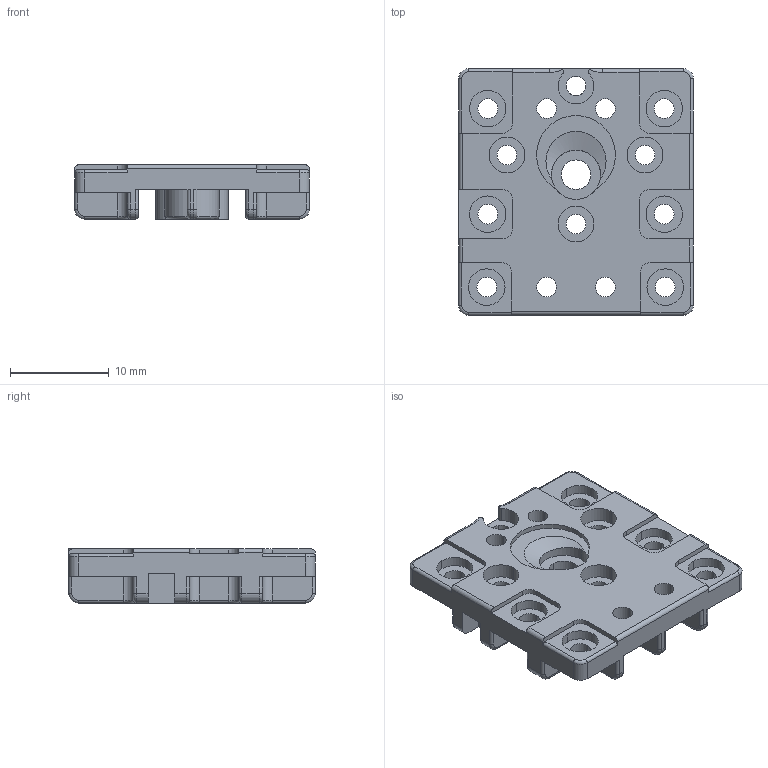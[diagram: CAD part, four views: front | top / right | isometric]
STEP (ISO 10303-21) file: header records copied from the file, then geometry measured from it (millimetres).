
FILE_DESCRIPTION((''),'2;1');
FILE_NAME('U_PLATE','2011-12-13T',('User'),(''),'PRO/ENGINEER BY PARAMETRIC TECHNOLOGY CORPORATION, 2008230','PRO/ENGINEER BY PARAMETRIC TECHNOLOGY CORPORATION, 2008230','');
FILE_SCHEMA(('CONFIG_CONTROL_DESIGN'));
Length unit declared in the file: millimetre
Products named in the file (1): U_PLATE
Bounding box: 23.8 x 25 x 5.5 mm (x, y, z)
Volume: 1631.8 mm3; surface area: 2286.5 mm2
Topology: 1 solids, 1 shells, 309 faces, 813 edges, 515 vertices
Faces by surface type: cylinder 163, plane 103, torus 41, sphere 1, bspline 1
Entity records: 9785 total; most frequent: CARTESIAN_POINT 1788, DIRECTION 1774, ORIENTED_EDGE 1626, EDGE_CURVE 813, AXIS2_PLACEMENT_3D 677, VERTEX_POINT 515, VECTOR 420, LINE 420
